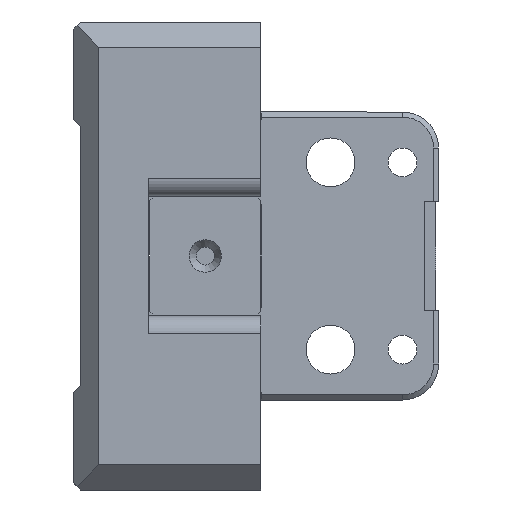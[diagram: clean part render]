
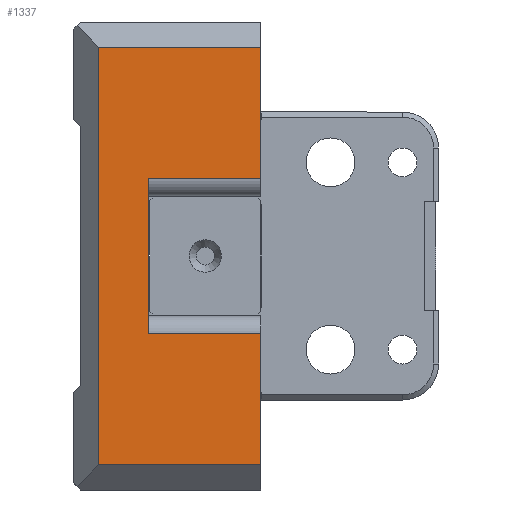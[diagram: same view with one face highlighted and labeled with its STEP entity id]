
A CAD part, left-side view. The second image highlights one B-rep face of the part: STEP entity #1337.
In plain terms, the highlighted planar face has unit normal (-1, 0, 0).
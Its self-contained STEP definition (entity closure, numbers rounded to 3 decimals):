
#8 = VECTOR ( 'NONE', #2843, 1000. ) ;
#60 = VERTEX_POINT ( 'NONE', #5000 ) ;
#100 = EDGE_CURVE ( 'NONE', #60, #2011, #4130, .T. ) ;
#158 = VERTEX_POINT ( 'NONE', #2210 ) ;
#296 = ORIENTED_EDGE ( 'NONE', *, *, #2346, .F. ) ;
#345 = DIRECTION ( 'NONE',  ( 0., -1., 0. ) ) ;
#510 = VERTEX_POINT ( 'NONE', #2036 ) ;
#512 = EDGE_CURVE ( 'NONE', #510, #984, #4243, .T. ) ;
#534 = PLANE ( 'NONE',  #2678 ) ;
#553 = EDGE_CURVE ( 'NONE', #984, #60, #846, .T. ) ;
#656 = CARTESIAN_POINT ( 'NONE',  ( -150., -10.4, -10.8 ) ) ;
#725 = CARTESIAN_POINT ( 'NONE',  ( -150., -10.4, 10.8 ) ) ;
#737 = VECTOR ( 'NONE', #4480, 1000. ) ;
#846 = LINE ( 'NONE', #1321, #5065 ) ;
#943 = CARTESIAN_POINT ( 'NONE',  ( -150., -10.4, -10.8 ) ) ;
#945 = DIRECTION ( 'NONE',  ( -1., 0., 0. ) ) ;
#984 = VERTEX_POINT ( 'NONE', #1346 ) ;
#1161 = VERTEX_POINT ( 'NONE', #1582 ) ;
#1321 = CARTESIAN_POINT ( 'NONE',  ( -150., -3.5, -32.5 ) ) ;
#1337 = ADVANCED_FACE ( 'NONE', ( #4831 ), #534, .T. ) ;
#1346 = CARTESIAN_POINT ( 'NONE',  ( -150., -3.5, 29. ) ) ;
#1410 = ORIENTED_EDGE ( 'NONE', *, *, #100, .T. ) ;
#1447 = VECTOR ( 'NONE', #345, 1000. ) ;
#1582 = CARTESIAN_POINT ( 'NONE',  ( -150., -26., -10.8 ) ) ;
#1603 = ORIENTED_EDGE ( 'NONE', *, *, #2327, .T. ) ;
#1772 = VECTOR ( 'NONE', #3669, 1000. ) ;
#2011 = VERTEX_POINT ( 'NONE', #5094 ) ;
#2036 = CARTESIAN_POINT ( 'NONE',  ( -150., -26., 29. ) ) ;
#2051 = CARTESIAN_POINT ( 'NONE',  ( -150., -26., -29. ) ) ;
#2096 = EDGE_CURVE ( 'NONE', #2258, #1161, #2711, .T. ) ;
#2145 = CARTESIAN_POINT ( 'NONE',  ( -150., -26., -32.5 ) ) ;
#2152 = DIRECTION ( 'NONE',  ( 0., 0., -1. ) ) ;
#2181 = EDGE_LOOP ( 'NONE', ( #3457, #1410, #5264, #5227, #296, #4840, #1603, #2298 ) ) ;
#2210 = CARTESIAN_POINT ( 'NONE',  ( -150., -26., 10.8 ) ) ;
#2258 = VERTEX_POINT ( 'NONE', #2450 ) ;
#2273 = VECTOR ( 'NONE', #3803, 1000. ) ;
#2298 = ORIENTED_EDGE ( 'NONE', *, *, #512, .T. ) ;
#2327 = EDGE_CURVE ( 'NONE', #158, #510, #4417, .T. ) ;
#2346 = EDGE_CURVE ( 'NONE', #4138, #2258, #4298, .T. ) ;
#2399 = LINE ( 'NONE', #5238, #1447 ) ;
#2450 = CARTESIAN_POINT ( 'NONE',  ( -150., -10.4, -10.8 ) ) ;
#2678 = AXIS2_PLACEMENT_3D ( 'NONE', #3399, #945, #3804 ) ;
#2711 = LINE ( 'NONE', #656, #3668 ) ;
#2835 = LINE ( 'NONE', #5274, #1772 ) ;
#2843 = DIRECTION ( 'NONE',  ( 0., 1., 0. ) ) ;
#3086 = EDGE_CURVE ( 'NONE', #4138, #158, #2399, .T. ) ;
#3346 = VECTOR ( 'NONE', #3785, 1000. ) ;
#3399 = CARTESIAN_POINT ( 'NONE',  ( -150., -26., -32.5 ) ) ;
#3457 = ORIENTED_EDGE ( 'NONE', *, *, #553, .T. ) ;
#3668 = VECTOR ( 'NONE', #4723, 1000. ) ;
#3669 = DIRECTION ( 'NONE',  ( 0., 0., 1. ) ) ;
#3785 = DIRECTION ( 'NONE',  ( 0., 0., 1. ) ) ;
#3803 = DIRECTION ( 'NONE',  ( 0., 0., -1. ) ) ;
#3804 = DIRECTION ( 'NONE',  ( 0., 0., 1. ) ) ;
#3870 = EDGE_CURVE ( 'NONE', #2011, #1161, #2835, .T. ) ;
#4049 = CARTESIAN_POINT ( 'NONE',  ( -150., -26., 29. ) ) ;
#4130 = LINE ( 'NONE', #2051, #737 ) ;
#4138 = VERTEX_POINT ( 'NONE', #725 ) ;
#4243 = LINE ( 'NONE', #4049, #8 ) ;
#4298 = LINE ( 'NONE', #943, #2273 ) ;
#4417 = LINE ( 'NONE', #2145, #3346 ) ;
#4480 = DIRECTION ( 'NONE',  ( 0., -1., 0. ) ) ;
#4723 = DIRECTION ( 'NONE',  ( 0., -1., 0. ) ) ;
#4831 = FACE_OUTER_BOUND ( 'NONE', #2181, .T. ) ;
#4840 = ORIENTED_EDGE ( 'NONE', *, *, #3086, .T. ) ;
#5000 = CARTESIAN_POINT ( 'NONE',  ( -150., -3.5, -29. ) ) ;
#5065 = VECTOR ( 'NONE', #2152, 1000. ) ;
#5094 = CARTESIAN_POINT ( 'NONE',  ( -150., -26., -29. ) ) ;
#5227 = ORIENTED_EDGE ( 'NONE', *, *, #2096, .F. ) ;
#5238 = CARTESIAN_POINT ( 'NONE',  ( -150., -10.4, 10.8 ) ) ;
#5264 = ORIENTED_EDGE ( 'NONE', *, *, #3870, .T. ) ;
#5274 = CARTESIAN_POINT ( 'NONE',  ( -150., -26., -32.5 ) ) ;
